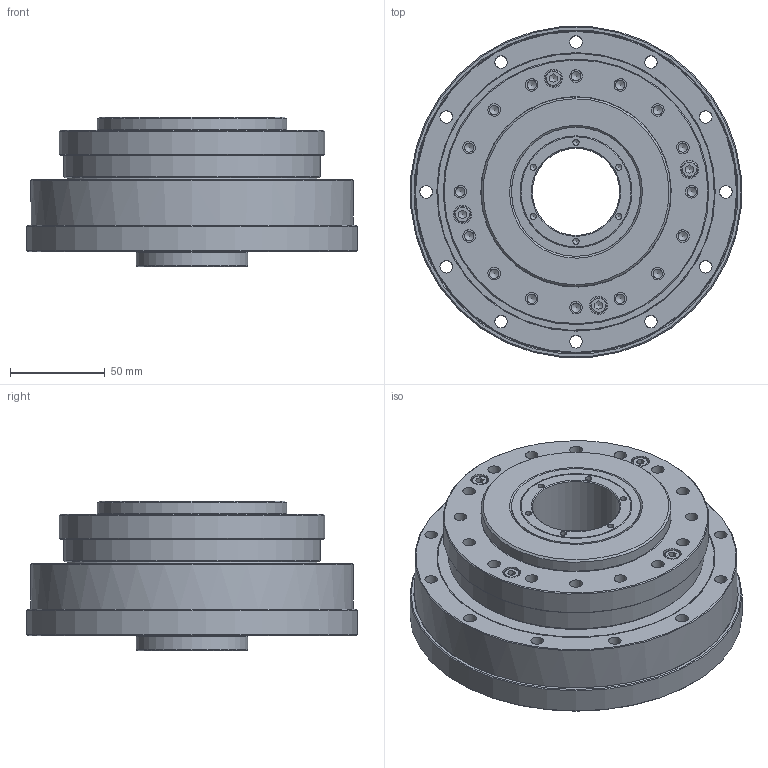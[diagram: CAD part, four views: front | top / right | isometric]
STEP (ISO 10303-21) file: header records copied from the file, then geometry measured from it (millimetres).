
FILE_DESCRIPTION(/* description */ (''),/* implementation_level */ '2;1');
FILE_NAME(/* name */ 'S:\TB00F\研發課二組\機密級\1.\X2\8A2D8A08\X0\\01-DT\DT-圖面\2.組合圖\\X2\6A21578B\X0\\DGH-AH\DGH-40-AH\AK0011Q1.stp',/* time_stamp */ '2024-05-28T11:59:53+08:00',/* author */ ('bb1128.zheng'),/* organization */ (''),/* preprocessor_version */ 'ST-DEVELOPER v15.2',/* originating_system */ 'Autodesk Inventor 2014',/* authorisation */ '');
FILE_SCHEMA (('AUTOMOTIVE_DESIGN { 1 0 10303 214 3 1 1 }'));
Length unit declared in the file: centimetre
Products named in the file (1): AK0011Q1
Bounding box: 174.33 x 174.33 x 79 mm (x, y, z)
Volume: 1172234.4 mm3; surface area: 128866.4 mm2
Topology: 1 solids, 24 shells, 559 faces, 1203 edges, 781 vertices
Faces by surface type: plane 197, cylinder 181, cone 157, torus 24
Full cylindrical faces by diameter (mm): 3.242 x18, 4 x6, 4.134 x4, 4.5 x12, 4.917 x16, 5 x4, 5.5 x8, 6.6 x68, 7.6 x6, 8.5 x10, 9.5 x4, 46 x2, 46.5 x1, 59 x2, 60 x1, 68 x1, 78 x1, 100 x1, 135 x2, 140 x1, 146 x1, 170 x3, 175 x1
Entity records: 12284 total; most frequent: DIRECTION 2238, CARTESIAN_POINT 2014, ORIENTED_EDGE 1382, AXIS2_PLACEMENT_3D 1055, EDGE_LOOP 1050, EDGE_CURVE 691, VERTEX_POINT 619, FACE_BOUND 588
